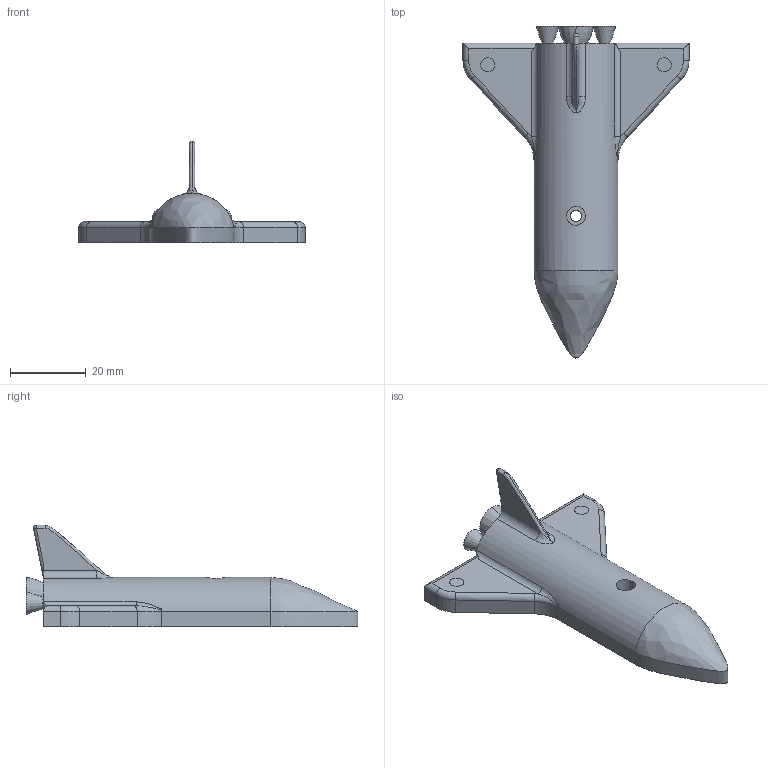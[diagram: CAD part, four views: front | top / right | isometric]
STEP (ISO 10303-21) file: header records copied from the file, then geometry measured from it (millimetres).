
FILE_DESCRIPTION(/* description */ ('STEP AP242 Edition 2'),/* implementation_level */ '2;1');
FILE_NAME(/* name */ 'Hypersonic Jet.step',/* time_stamp */ '2026-11-10T17:34:54+07:00',/* author */ (''),/* organization */ (''),/* preprocessor_version */ 'ST-DEVELOPER v20.2',/* originating_system */ 'Autodesk Translation Framework v15.17.0.0',/* authorisation */ '');
FILE_SCHEMA (('AUTOMOTIVE_DESIGN { 1 0 10303 214 3 1 1 }'));
Length unit declared in the file: metre
Products named in the file (1): S4
Bounding box: 59.55 x 87.41 x 26.73 mm (x, y, z)
Volume: 18615.8 mm3; surface area: 8100.3 mm2
Topology: 1 solids, 1 shells, 77 faces, 178 edges, 109 vertices
Faces by surface type: plane 31, cylinder 21, bspline 16, cone 4, torus 4, sphere 1
Full cylindrical faces by diameter (mm): 3 x1, 3.75 x2, 5 x1
Entity records: 11858 total; most frequent: CARTESIAN_POINT 10145, ORIENTED_EDGE 348, DIRECTION 318, EDGE_CURVE 174, AXIS2_PLACEMENT_3D 122, VERTEX_POINT 109, EDGE_LOOP 89, FACE_OUTER_BOUND 77
